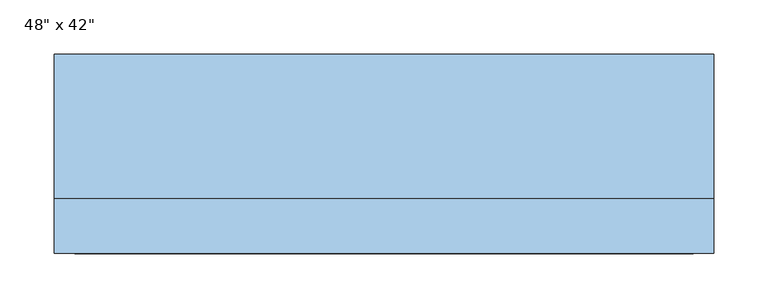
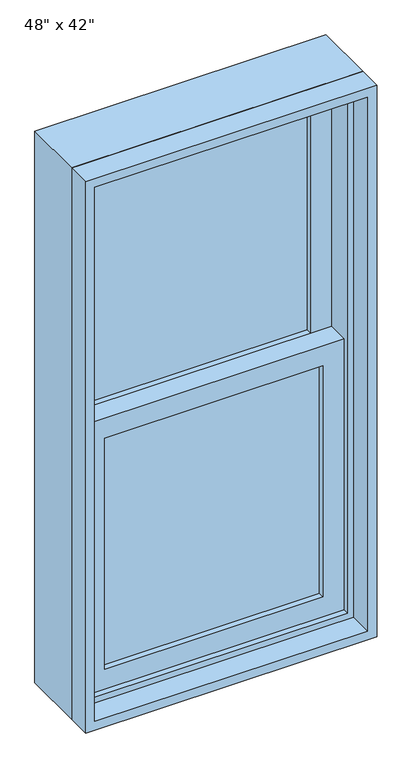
"""IFC4 building model written with IfcOpenShell, lengths in millimetres: window geometry."""

from ifc_helpers import new_model, si_unit, frame, origin, place, context, project, spatial, polyline, outline, extrude, source, transform, mapped, element, save


def window_1f1c2442(model_context):
    return source(origin(), model_context, "Body", "SweptSolid", [
        extrude(outline(polyline([(228.6, 12.7), (228.6, 6.35), (-228.6, 6.35), (-228.6, 12.7), (228.6, 12.7)])), frame((0.0, 0.0, 990.6), z_axis=(0.0, 0.0, 1.0), x_axis=(1.0, 0.0, 0.0)), (0.0, 0.0, 1.0), 511.175),
        extrude(outline(polyline([(-228.6, 0.0), (228.6, 0.0), (228.6, -6.35), (-228.6, -6.35), (-228.6, 0.0)])), frame((0.0, 0.0, 990.6), z_axis=(0.0, 0.0, 1.0), x_axis=(1.0, 0.0, 0.0)), (0.0, 0.0, 1.0), 511.175),
        extrude(outline(polyline([(228.6, 57.15), (228.6, 50.8), (-228.6, 50.8), (-228.6, 57.15), (228.6, 57.15)])), frame((0.0, 0.0, 1546.225), z_axis=(0.0, 0.0, 1.0), x_axis=(1.0, 0.0, 0.0)), (0.0, 0.0, 1.0), 511.175),
        extrude(outline(polyline([(-228.6, 44.45), (228.6, 44.45), (228.6, 38.1), (-228.6, 38.1), (-228.6, 44.45)])), frame((0.0, 0.0, 1546.225), z_axis=(0.0, 0.0, 1.0), x_axis=(1.0, 0.0, 0.0)), (0.0, 0.0, 1.0), 511.175),
        extrude(outline(polyline([(1546.225, -273.05), (946.15, -273.05), (946.15, 273.05), (1546.225, 273.05), (1546.225, -273.05)]), holes=[polyline([(1501.775, 228.6), (990.6, 228.6), (990.6, -228.6), (1501.775, -228.6), (1501.775, 228.6)])]), frame((0.0, -19.05, 0.0), z_axis=(0.0, 1.0, 0.0), x_axis=(0.0, 0.0, 1.0)), (0.0, 0.0, 1.0), 44.45),
        extrude(outline(polyline([(2101.85, -273.05), (1501.775, -273.05), (1501.775, 273.05), (2101.85, 273.05), (2101.85, -273.05)]), holes=[polyline([(2057.4, 228.6), (1546.225, 228.6), (1546.225, -228.6), (2057.4, -228.6), (2057.4, 228.6)])]), frame((0.0, 25.4, 0.0), z_axis=(0.0, 1.0, 0.0), x_axis=(0.0, 0.0, 1.0)), (0.0, 0.0, 1.0), 44.45),
        extrude(outline(polyline([(2133.6, -304.8), (914.4, -304.8), (914.4, 304.8), (2133.6, 304.8), (2133.6, -304.8)]), holes=[polyline([(2101.85, 273.05), (946.15, 273.05), (946.15, -273.05), (2101.85, -273.05), (2101.85, 273.05)])]), frame((0.0, -31.75, 0.0), z_axis=(0.0, 1.0, 0.0), x_axis=(0.0, 0.0, 1.0)), (0.0, 0.0, 1.0), 133.35),
        extrude(outline(polyline([(2133.6, 304.8), (2133.6, -304.8), (914.4, -304.8), (914.4, 304.8), (2133.6, 304.8)]), holes=[polyline([(2114.55, 285.75), (933.45, 285.75), (933.45, -285.75), (2114.55, -285.75), (2114.55, 285.75)])]), frame((0.0, -82.55, 0.0), z_axis=(0.0, 1.0, 0.0), x_axis=(0.0, 0.0, 1.0)), (0.0, 0.0, 1.0), 50.8),
    ])


if __name__ == "__main__":
    model = new_model("IFC4")
    model_context = context("Model", 3, world=origin())
    ifc_project = project(units=[si_unit("LENGTHUNIT", "METRE", prefix="MILLI")], contexts=[model_context])
    site = spatial("IfcSite", under=ifc_project)
    building = spatial("IfcBuilding", under=site)
    placement = place(None, origin())
    window_shape = window_1f1c2442(model_context)
    element("IfcWindow", 1, ObjectType="Planitar-Double-Hung-Single : 48\" x 42\"", at=placement, inside=building, context=model_context, shape_type="MappedRepresentation", body=[
        mapped(window_shape, transform((0.0, 0.0, 0.0), x_axis=(1.0, 0.0, 0.0), y_axis=(0.0, 1.0, 0.0), z_axis=(0.0, 0.0, 1.0))),
    ])
    save(model, "model.ifc")
